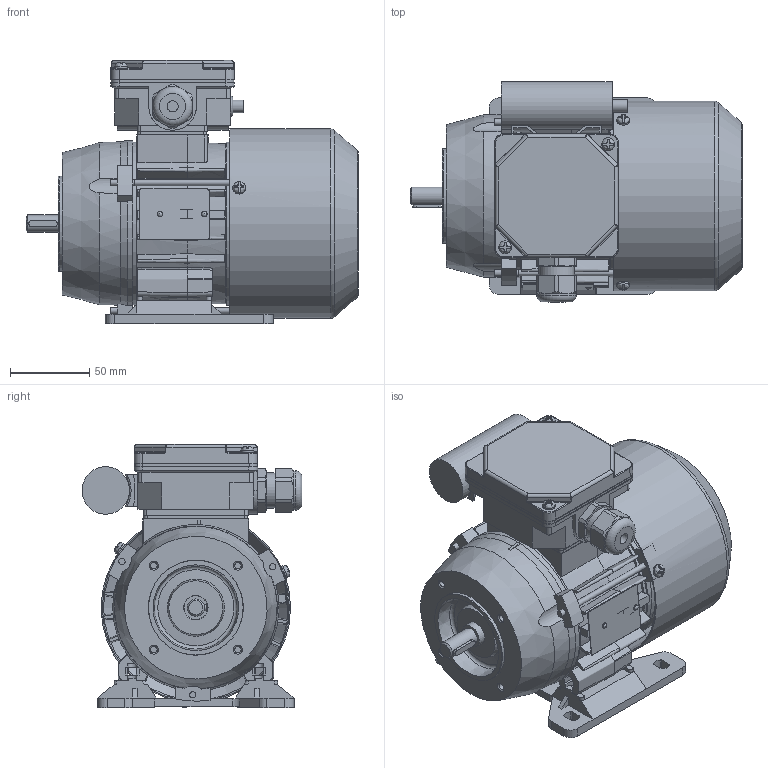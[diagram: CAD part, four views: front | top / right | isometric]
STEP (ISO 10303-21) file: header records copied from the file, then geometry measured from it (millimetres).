
FILE_DESCRIPTION( ( 'Unknown' ), '1' );
FILE_NAME( 'G:/Poczta Tk-1/STP/w.m.63/SEh63/SE(M)Lh63-B2.stp', 'Unknown', ( 'K. Szlosek' ), ( 'BESEL S.A.' ), 'PSStep 17.0.49', 'Unknown', ' ' );
FILE_SCHEMA( ( 'AUTOMOTIVE_DESIGN { 1 0 10303 214 1 1 1 1 }' ) );
Length unit declared in the file: millimetre
Products named in the file (33): Assem1; K3-5320 Tarcza łożyskowa P Sg63; K4-2320 Uszczelka nr 1 Sh71,80; Wpust A4x4x18; K4-2820 Uszczelka nr 2 Sh71,80; K2-0860 Pokrywka skrzynki zaciskowej; Wkręt samogwintujący M4x16; K4-0898 Tulejka uszczelniająca; Kondensator zb 8-10uF; K2-1769 Przewietrznik Sg63; Wkręt samogwintujący M4x8; K3-9974 wał Sh63-A,B standard; K3-9973 Kadłub ze stojanem wykończonym Sh63-B; K3-9440 Podstawa  skrzynki zaciskowej SEhR71-D; K3-1974 Uchwyt kondensatora (mały); K1-1112 Tarcza kołnierzowa B14_2 SKg63-..2; K3-5321 osłona przewietrznika Sg63; K1-1107 Łapa Sg63-.. w. robocza; Nitokołek A 2x6; Dławnica M20x1,5; Łożysko 6202; Śruba ściągająca E_M4x85; Tabliczka znamionowa 32x44
Assembly tree (49 placements, depth 2):
  Assem1
    K3-5320 Tarcza łożyskowa P Sg63
    K4-2320 Uszczelka nr 1 Sh71,80
    Wpust A4x4x18
    K4-2820 Uszczelka nr 2 Sh71,80
    K2-0860 Pokrywka skrzynki zaciskowej
    Wkręt samogwintujący M4x16  x2
    K4-0898 Tulejka uszczelniająca
    Kondensator zb 8-10uF
    K2-1769 Przewietrznik Sg63
    Wkręt samogwintujący M4x8  x3
    K3-9974 wał Sh63-A,B standard
    K3-9973 Kadłub ze stojanem wykończonym Sh63-B
    K3-9440 Podstawa  skrzynki zaciskowej SEhR71-D
    K3-1974 Uchwyt kondensatora (mały)
    K1-1112 Tarcza kołnierzowa B14_2 SKg63-..2
    K3-5321 osłona przewietrznika Sg63
    K1-1107 Łapa Sg63-.. w. robocza
    Nitokołek A 2x6  x2
    Dławnica M20x1,5
    Łożysko 6202  x2
    Łożysko 6202  x2
    Łożysko 6202  x2
    Łożysko 6202  x2
    Łożysko 6202  x2
    Łożysko 6202  x2
    Łożysko 6202  x2
    Łożysko 6202  x2
    Łożysko 6202  x2
    Łożysko 6202  x2
    Łożysko 6202  x2
    Śruba ściągająca E_M4x85  x3
    Tabliczka znamionowa 32x44
Bounding box: 209.5 x 138.82 x 166 mm (x, y, z)
Volume: 598925.1 mm3; surface area: 372461.3 mm2
Topology: 49 solids, 67 shells, 2063 faces, 5664 edges, 3680 vertices
Faces by surface type: plane 1050, cylinder 613, cone 142, torus 120, bspline 99, sphere 39
Full cylindrical faces by diameter (mm): 2 x2, 2.4 x2, 3 x1, 3.242 x3, 3.5 x2, 3.7 x10, 4 x8, 4.134 x4, 4.5 x4, 4.6 x1, 4.8 x4, 5 x4, 5.8 x4, 6.5 x1, 7 x4, 8 x7, 10 x2, 11 x1, 12.9 x1, 13.1 x1, 13.5 x1, 15 x4, 15.4 x2, 18.38 x1, 18.5 x1, 19 x2, 19.5 x1, 20 x2, 20.1 x1, 21.52 x4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
Entity records: 88631 total; most frequent: CARTESIAN_POINT 26907, ORIENTED_EDGE 9852, DIRECTION 9494, EDGE_CURVE 4926, AXIS2_PLACEMENT_3D 3501, VERTEX_POINT 3352, LINE 2492, VECTOR 2492
